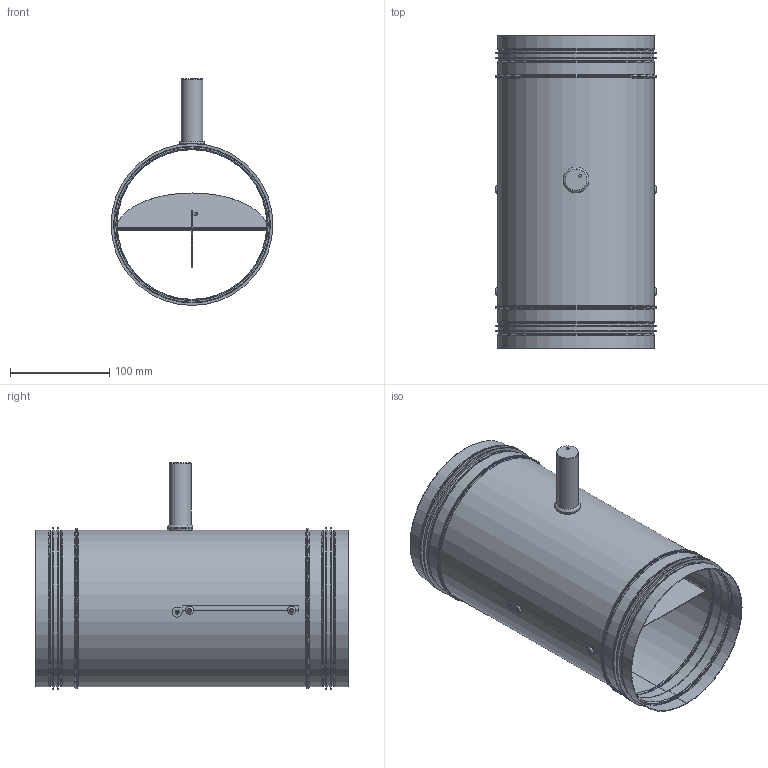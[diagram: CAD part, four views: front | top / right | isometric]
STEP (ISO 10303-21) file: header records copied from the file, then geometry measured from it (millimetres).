
FILE_DESCRIPTION(/* description */ ('540_125x100_VRK-N'),/* implementation_level */ '2;1');
FILE_NAME(/* name */ '233_160_VRK.stp',/* time_stamp */ '2024-06-25T11:10:25+02:00',/* author */ ('bonsen'),/* organization */ ('Aerotechnik E. Siegwart GmbH'),/* preprocessor_version */ 'ST-DEVELOPER v20',/* originating_system */ 'Autodesk Inventor 2024',/* authorisation */ '');
FILE_SCHEMA (('AUTOMOTIVE_DESIGN { 1 0 10303 214 3 1 1 }'));
Length unit declared in the file: millimetre
Products named in the file (5): 540_125x100_VRK-N; Rohrkörper; Daempferplatte; Verstelleinheit; Lippengummi
Assembly tree (5 placements, depth 2):
  540_125x100_VRK-N
    Rohrkörper
    Daempferplatte
    Verstelleinheit
    Lippengummi  x2
Bounding box: 163 x 315 x 228.5 mm (x, y, z)
Volume: 183992.6 mm3; surface area: 447031.2 mm2
Topology: 7 solids, 7 shells, 258 faces, 536 edges, 300 vertices
Faces by surface type: plane 151, cylinder 62, torus 42, bspline 2, cone 1
Full cylindrical faces by diameter (mm): 2 x5, 3 x2, 4 x2, 8 x4, 21.5 x1, 22 x1, 26 x1, 150.74 x2, 152 x2, 153 x2, 156.74 x5, 157 x6, 158 x5, 160.74 x2, 162 x2, 163 x4
Entity records: 6810 total; most frequent: DIRECTION 1264, CARTESIAN_POINT 1191, ORIENTED_EDGE 1036, EDGE_CURVE 518, AXIS2_PLACEMENT_3D 502, VERTEX_POINT 288, EDGE_LOOP 264, LINE 260
